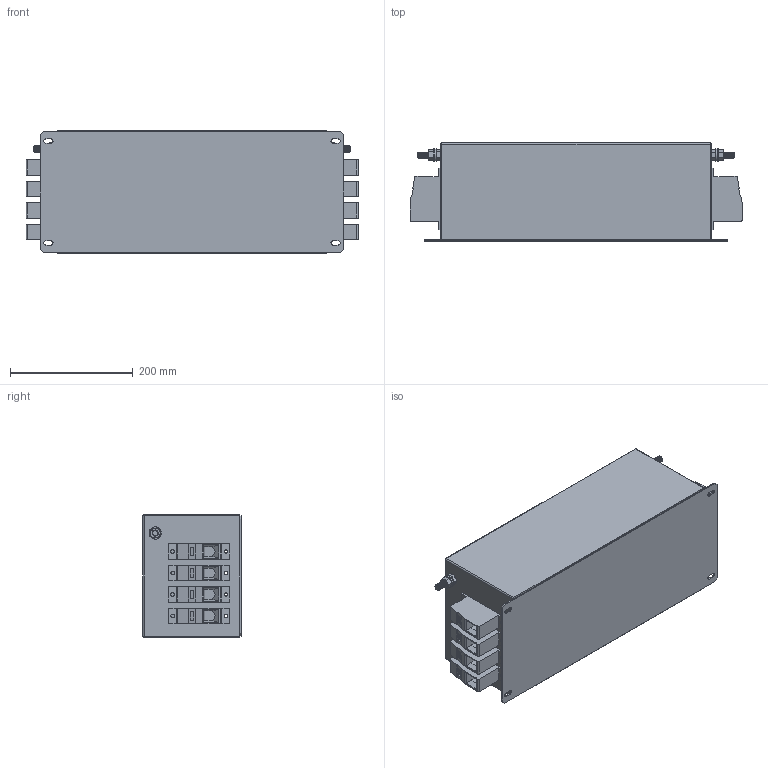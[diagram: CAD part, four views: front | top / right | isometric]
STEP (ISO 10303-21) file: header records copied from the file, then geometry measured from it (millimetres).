
FILE_DESCRIPTION (( 'STEP AP203' ), '1' );
FILE_NAME ('NF-4-170.STEP', '2022-05-17T14:16:50', ( '' ), ( '' ), 'SwSTEP 2.0', 'SolidWorks 2017', '' );
FILE_SCHEMA (( 'CONFIG_CONTROL_DESIGN' ));
Length unit declared in the file: millimetre
Products named in the file (7): NF-4-170; HDFK-95; hex screw_am_B18.6.7M - M10 x 1.5 x 30 Indented HHMS --30S; flat washer narrow_am_B18.22M - Plain washer, 10 mm, narrow; hex nut style 1_am_B18.2.4.1M - Hex nut, Style 1,  M10 x 1.5, with 16mm WAF --D-N; M10x30 Earth post; DLC-H4
Assembly tree (15 placements, depth 3):
  NF-4-170
    DLC-H4
    HDFK-95  x8
    M10x30 Earth post  x2
      flat washer narrow_am_B18.22M - Plain washer, 10 mm, narrow
      hex nut style 1_am_B18.2.4.1M - Hex nut, Style 1,  M10 x 1.5, with 16mm WAF --D-N
      hex screw_am_B18.6.7M - M10 x 1.5 x 30 Indented HHMS --30S
Bounding box: 541 x 160 x 200 mm (x, y, z)
Volume: 14704152.7 mm3; surface area: 611990.5 mm2
Topology: 17 solids, 17 shells, 1056 faces, 2682 edges, 1716 vertices
Faces by surface type: plane 614, cylinder 238, cone 200, sphere 4
Entity records: 10425 total; most frequent: CARTESIAN_POINT 1790, DIRECTION 1706, ORIENTED_EDGE 1548, EDGE_CURVE 774, AXIS2_PLACEMENT_3D 642, VERTEX_POINT 486, VECTOR 422, LINE 422
